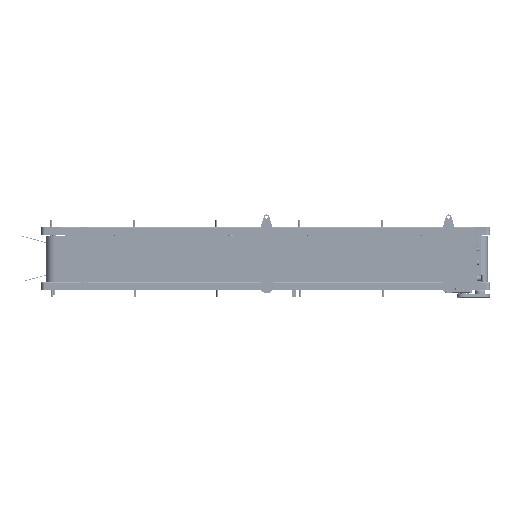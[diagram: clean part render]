
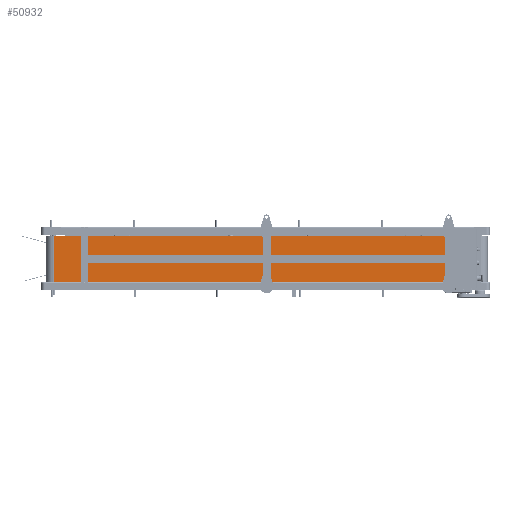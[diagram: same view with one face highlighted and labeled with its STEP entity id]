
A CAD part, front view. The second image highlights one B-rep face of the part: STEP entity #50932.
In plain terms, the highlighted planar face has unit normal (0, -1, 0).
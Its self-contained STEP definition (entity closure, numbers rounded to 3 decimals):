
#30196=PLANE('',#116831);
#37091=LINE('',#207120,#44180);
#37097=LINE('',#207135,#44186);
#37101=LINE('',#207153,#44190);
#37105=LINE('',#207163,#44194);
#44180=VECTOR('',#130814,1.);
#44186=VECTOR('',#130828,1.);
#44190=VECTOR('',#130846,1.);
#44194=VECTOR('',#130862,1.);
#50932=ADVANCED_FACE('',(#55658),#30196,.T.);
#55658=FACE_OUTER_BOUND('',#60491,.T.);
#60491=EDGE_LOOP('',(#74982,#74983,#74984,#74985));
#74982=ORIENTED_EDGE('',*,*,#103094,.T.);
#74983=ORIENTED_EDGE('',*,*,#103080,.T.);
#74984=ORIENTED_EDGE('',*,*,#103072,.F.);
#74985=ORIENTED_EDGE('',*,*,#103089,.F.);
#92672=VERTEX_POINT('',#207114);
#92675=VERTEX_POINT('',#207119);
#92681=VERTEX_POINT('',#207136);
#92687=VERTEX_POINT('',#207152);
#103072=EDGE_CURVE('',#92675,#92672,#37091,.T.);
#103080=EDGE_CURVE('',#92681,#92672,#37097,.T.);
#103089=EDGE_CURVE('',#92687,#92675,#37101,.T.);
#103094=EDGE_CURVE('',#92687,#92681,#37105,.T.);
#116831=AXIS2_PLACEMENT_3D('',#207164,#130863,#130864);
#130814=DIRECTION('',(0.,0.,1.));
#130828=DIRECTION('',(-1.,0.,0.));
#130846=DIRECTION('',(-1.,0.,0.));
#130862=DIRECTION('',(0.,0.,1.));
#130863=DIRECTION('',(0.,-1.,0.));
#130864=DIRECTION('',(0.,0.,1.));
#207114=CARTESIAN_POINT('',(-900.,-39.,118.));
#207119=CARTESIAN_POINT('',(-900.,-39.,-118.));
#207120=CARTESIAN_POINT('',(-900.,-39.,118.));
#207135=CARTESIAN_POINT('',(635.,-39.,118.));
#207136=CARTESIAN_POINT('',(1265.,-39.,118.));
#207152=CARTESIAN_POINT('',(1265.,-39.,-118.));
#207153=CARTESIAN_POINT('',(635.,-39.,-118.));
#207163=CARTESIAN_POINT('',(1265.,-39.,118.));
#207164=CARTESIAN_POINT('',(1265.,-39.,118.));
